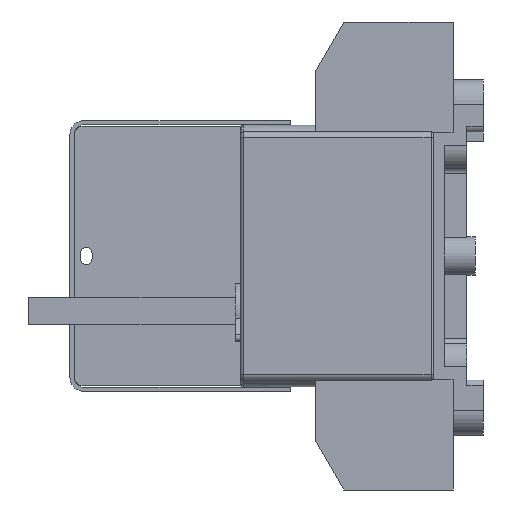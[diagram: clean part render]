
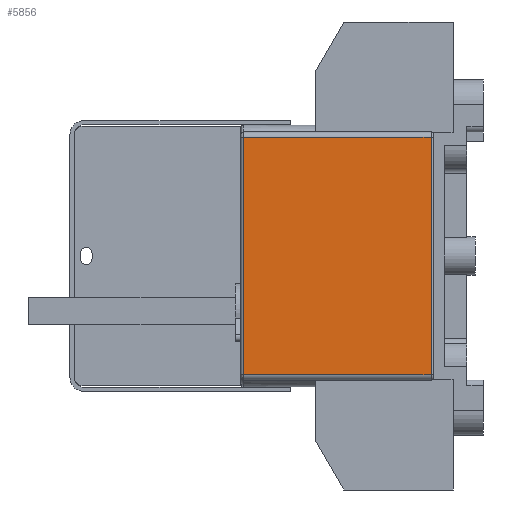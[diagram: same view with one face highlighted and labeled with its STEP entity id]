
A CAD part, left-side view. The second image highlights one B-rep face of the part: STEP entity #5856.
In plain terms, the highlighted planar face has unit normal (-1, 0, 0).
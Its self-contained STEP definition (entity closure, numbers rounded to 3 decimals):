
#2595=LINE('',#32524,#4656);
#2742=LINE('',#33195,#4803);
#2747=LINE('',#33231,#4808);
#2748=LINE('',#33233,#4809);
#4656=VECTOR('',#26569,1.);
#4803=VECTOR('',#27168,1.);
#4808=VECTOR('',#27183,1.);
#4809=VECTOR('',#27186,1.);
#5856=ADVANCED_FACE('',(#7427),#6535,.F.);
#6535=PLANE('',#21723);
#7427=FACE_OUTER_BOUND('',#8649,.T.);
#8649=EDGE_LOOP('',(#13857,#13858,#13859,#13860));
#13857=ORIENTED_EDGE('',*,*,#19123,.F.);
#13858=ORIENTED_EDGE('',*,*,#19114,.T.);
#13859=ORIENTED_EDGE('',*,*,#19124,.T.);
#13860=ORIENTED_EDGE('',*,*,#18836,.T.);
#16149=VERTEX_POINT('',#32517);
#16151=VERTEX_POINT('',#32523);
#16335=VERTEX_POINT('',#33173);
#16337=VERTEX_POINT('',#33194);
#18836=EDGE_CURVE('',#16149,#16151,#2595,.T.);
#19114=EDGE_CURVE('',#16335,#16337,#2742,.T.);
#19123=EDGE_CURVE('',#16335,#16151,#2747,.T.);
#19124=EDGE_CURVE('',#16337,#16149,#2748,.T.);
#21723=AXIS2_PLACEMENT_3D('',#33234,#27187,#27188);
#26569=DIRECTION('',(0.,0.,1.));
#27168=DIRECTION('',(0.,0.,-1.));
#27183=DIRECTION('',(0.,-1.,0.));
#27186=DIRECTION('',(0.,-1.,0.));
#27187=DIRECTION('',(1.,0.,0.));
#27188=DIRECTION('',(0.,0.,-1.));
#32517=CARTESIAN_POINT('',(-41.,1.,-43.));
#32523=CARTESIAN_POINT('',(-41.,1.,43.));
#32524=CARTESIAN_POINT('',(-41.,1.,-43.));
#33173=CARTESIAN_POINT('',(-41.,69.,43.));
#33194=CARTESIAN_POINT('',(-41.,69.,-43.));
#33195=CARTESIAN_POINT('',(-41.,69.,-43.));
#33231=CARTESIAN_POINT('',(-41.,35.,43.));
#33233=CARTESIAN_POINT('',(-41.,35.,-43.));
#33234=CARTESIAN_POINT('',(-41.,35.,-43.));
